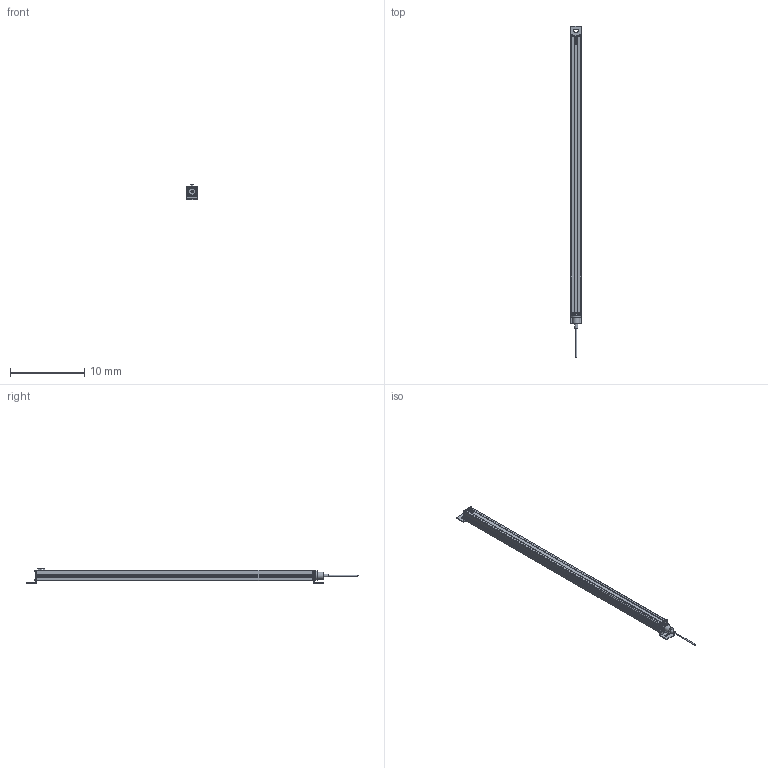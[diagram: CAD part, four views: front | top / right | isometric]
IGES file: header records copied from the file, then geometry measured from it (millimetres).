
Start section:  Autodesk DirectConnect version 7.0.27.0 ---- IGES version 5.3
Global section: file name: C:\ACADFILES\MG_PYLONS\CUSTOMER_FILES\MG-36-PYLON_3D_L.iges; native system: Autodesk DirectConnect 7.0.27.0; preprocessor: 7.0.27.0; author: ENGINEERMAIN; organization: Unknown; date: 20150810.133712; units: millimetre
Bounding box: 1.46 x 44.85 x 2.11 mm (x, y, z)
Surface area: 575.8 mm2 (no closed solid volume)
Topology: 0 solids, 0 shells, 630 faces, 3369 edges, 3383 vertices
Faces by surface type: bspline 630
